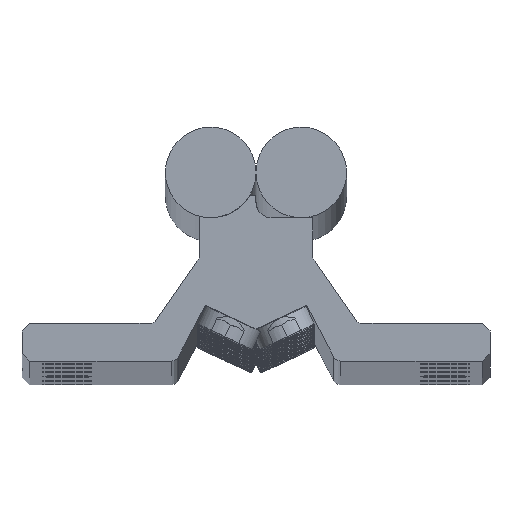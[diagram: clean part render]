
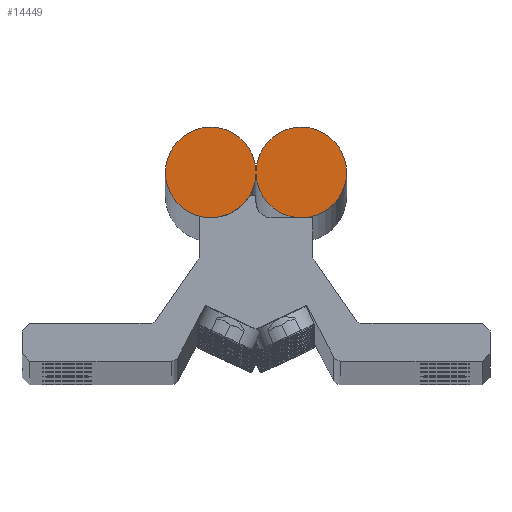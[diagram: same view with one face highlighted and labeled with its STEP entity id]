
A CAD part, top view. The second image highlights one B-rep face of the part: STEP entity #14449.
In plain terms, the highlighted planar face has unit normal (0, 0, 1).
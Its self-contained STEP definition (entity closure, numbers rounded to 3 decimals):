
#3978 = DIRECTION ( 'NONE',  ( 1., 0., 0. ) ) ;
#3979 = DIRECTION ( 'NONE',  ( 0., 0., 1. ) ) ;
#3980 = CARTESIAN_POINT ( 'NONE',  ( 6., 25., 1. ) ) ;
#3981 = AXIS2_PLACEMENT_3D ( 'NONE', #3980, #3979, #3978 ) ;
#3982 = CIRCLE ( 'NONE', #3981, 6. ) ;
#3983 = CARTESIAN_POINT ( 'NONE',  ( 12., 25., 1. ) ) ;
#4038 = CARTESIAN_POINT ( 'NONE',  ( 0.005, 24.75, 1. ) ) ;
#14403 = EDGE_CURVE ( 'NONE', #14404, #17188, #28114, .T. ) ;
#14404 = VERTEX_POINT ( 'NONE', #28110 ) ;
#14411 = EDGE_CURVE ( 'NONE', #14412, #14404, #28097, .T. ) ;
#14412 = VERTEX_POINT ( 'NONE', #28093 ) ;
#14430 = VERTEX_POINT ( 'NONE', #28133 ) ;
#14432 = EDGE_CURVE ( 'NONE', #17185, #14430, #28131, .T. ) ;
#14449 = ADVANCED_FACE ( 'NONE', ( #28119 ), #28180, .T. ) ;
#14450 = EDGE_LOOP ( 'NONE', ( #14451, #14452, #14453, #14454, #14515 ) ) ;
#14451 = ORIENTED_EDGE ( 'NONE', *, *, #17187, .T. ) ;
#14452 = ORIENTED_EDGE ( 'NONE', *, *, #14432, .T. ) ;
#14453 = ORIENTED_EDGE ( 'NONE', *, *, #14459, .T. ) ;
#14454 = ORIENTED_EDGE ( 'NONE', *, *, #14411, .T. ) ;
#14459 = EDGE_CURVE ( 'NONE', #14430, #14412, #28171, .T. ) ;
#14515 = ORIENTED_EDGE ( 'NONE', *, *, #14403, .T. ) ;
#17185 = VERTEX_POINT ( 'NONE', #3983 ) ;
#17187 = EDGE_CURVE ( 'NONE', #17188, #17185, #3982, .T. ) ;
#17188 = VERTEX_POINT ( 'NONE', #4038 ) ;
#28093 = CARTESIAN_POINT ( 'NONE',  ( -0.005, 25.25, 1. ) ) ;
#28094 = DIRECTION ( 'NONE',  ( 1., 0., 0. ) ) ;
#28095 = DIRECTION ( 'NONE',  ( 0., 0., 1. ) ) ;
#28096 = AXIS2_PLACEMENT_3D ( 'NONE', #28102, #28095, #28094 ) ;
#28097 = CIRCLE ( 'NONE', #28096, 6. ) ;
#28102 = CARTESIAN_POINT ( 'NONE',  ( -6., 25., 1. ) ) ;
#28110 = CARTESIAN_POINT ( 'NONE',  ( -0.005, 24.75, 1. ) ) ;
#28111 = DIRECTION ( 'NONE',  ( 1., 0., 0. ) ) ;
#28112 = VECTOR ( 'NONE', #28111, 1000. ) ;
#28113 = CARTESIAN_POINT ( 'NONE',  ( -0.005, 24.75, 1. ) ) ;
#28114 = LINE ( 'NONE', #28113, #28112 ) ;
#28119 = FACE_OUTER_BOUND ( 'NONE', #14450, .T. ) ;
#28127 = DIRECTION ( 'NONE',  ( 1., 0., 0. ) ) ;
#28128 = DIRECTION ( 'NONE',  ( 0., 0., 1. ) ) ;
#28129 = CARTESIAN_POINT ( 'NONE',  ( 6., 25., 1. ) ) ;
#28130 = AXIS2_PLACEMENT_3D ( 'NONE', #28129, #28128, #28127 ) ;
#28131 = CIRCLE ( 'NONE', #28130, 6. ) ;
#28133 = CARTESIAN_POINT ( 'NONE',  ( 0.005, 25.25, 1. ) ) ;
#28168 = DIRECTION ( 'NONE',  ( -1., 0., 0. ) ) ;
#28169 = VECTOR ( 'NONE', #28168, 1000. ) ;
#28170 = CARTESIAN_POINT ( 'NONE',  ( 0.005, 25.25, 1. ) ) ;
#28171 = LINE ( 'NONE', #28170, #28169 ) ;
#28176 = DIRECTION ( 'NONE',  ( 1., 0., 0. ) ) ;
#28177 = DIRECTION ( 'NONE',  ( 0., 0., 1. ) ) ;
#28178 = CARTESIAN_POINT ( 'NONE',  ( 6., 25., 1. ) ) ;
#28179 = AXIS2_PLACEMENT_3D ( 'NONE', #28178, #28177, #28176 ) ;
#28180 = PLANE ( 'NONE',  #28179 ) ;
